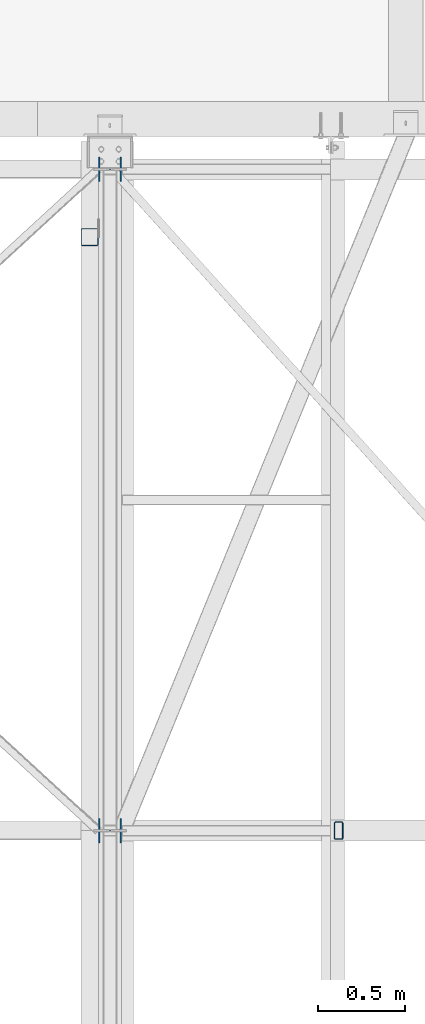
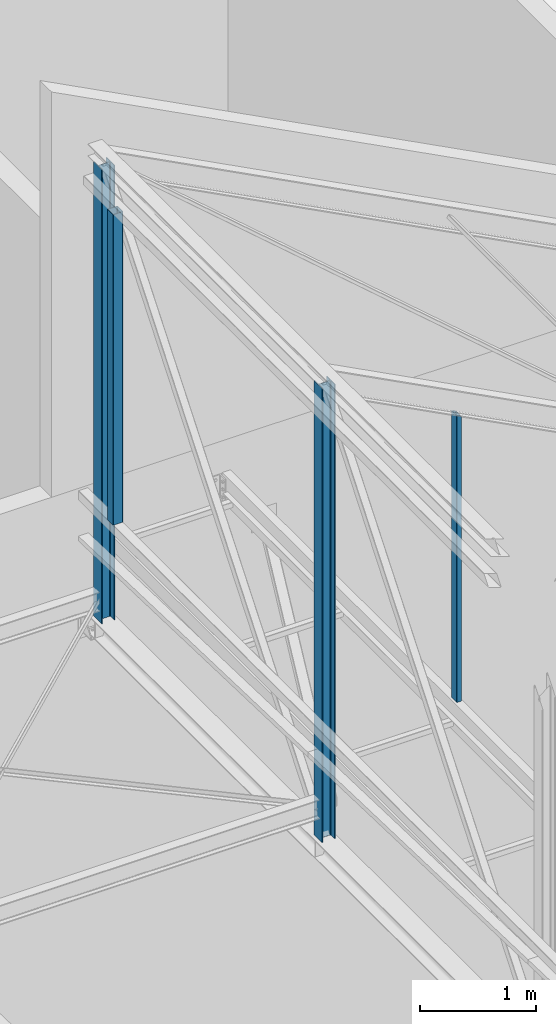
# One storey, part 5 of 123: 4 columns, 4 elements without a shape of their own.
"""IFC2X3 building model written with IfcOpenShell, lengths in millimetres."""

from ifc_helpers import new_model, si_unit, frame, origin_with_axes, origin_2d_with_axis, place, context, subcontext, project, spatial, hollow_rectangle, i_section, extrude, clip, halfspace, material, type_object, element, aggregate, save


model = new_model("IFC2X3")

# Units and contexts
model_context = context("Model", 3, precision=1e-05, world=origin_with_axes())
body_context = subcontext(model_context, "Body", "Model", "MODEL_VIEW")
ifc_project = project(units=[si_unit("LENGTHUNIT", "METRE", prefix="MILLI"), si_unit("AREAUNIT", "SQUARE_METRE"), si_unit("VOLUMEUNIT", "CUBIC_METRE"), si_unit("MASSUNIT", "GRAM", prefix="KILO"), si_unit("TIMEUNIT", "SECOND"), si_unit("PLANEANGLEUNIT", "RADIAN"), si_unit("SOLIDANGLEUNIT", "STERADIAN"), si_unit("THERMODYNAMICTEMPERATUREUNIT", "DEGREE_CELSIUS"), si_unit("LUMINOUSINTENSITYUNIT", "LUMEN")], contexts=[model_context])

# Site, building, storey
site_placement = place(None, origin_with_axes())
site = spatial("IfcSite", under=ifc_project, at=site_placement, Name="Undefined", CompositionType="ELEMENT")
building_placement = place(site_placement, origin_with_axes())
building = spatial("IfcBuilding", under=site, at=building_placement, Name="Undefined", CompositionType="ELEMENT")
storey_placement = place(building_placement, origin_with_axes())
storey = spatial("IfcBuildingStorey", under=building, at=storey_placement, Name="Undefined", CompositionType="ELEMENT", Elevation=0.0)

# Assembly, column
assembly_1_placement = place(storey_placement, origin_with_axes())
assembly_1 = element("IfcElementAssembly", 1, at=assembly_1_placement, inside=storey, Name="Steel Assembly", AssemblyPlace="NOTDEFINED", PredefinedType="RIGID_FRAME")
ifc_material_1 = material(Name="STEEL/S235-E24")
column_type_1 = type_object("IfcColumnType", Name="TUBE-R-100*50*3", PredefinedType="NOTDEFINED")
column_1_placement = place(assembly_1_placement, frame((13993.9998855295, 11400.0, 8240.0), z_axis=(0.0, 0.0, 1.0), x_axis=(0.0, -1.0, 0.0)))
column_1 = element("IfcColumn", 2, at=column_1_placement, type_object=column_type_1, material=ifc_material_1, Name="SUSPENTE", ObjectType="TUBE-R-100*50*3", context=body_context, shape_type="Clipping", body=[
    clip(extrude(hollow_rectangle(XDim=50.0, YDim=100.0, WallThickness=3.0, InnerFilletRadius=3.0, OuterFilletRadius=6.0, at=origin_2d_with_axis()), frame((0.0, 0.0, 3021.59058574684), z_axis=(0.0, 0.0, -1.0), x_axis=(0.0, 1.0, 0.0)), (0.0, 0.0, 1.0), 3021.6), halfspace(frame((0.0, -58.9640416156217, 3039.22712195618), z_axis=(0.0, -0.46352846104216, -0.886082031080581), x_axis=(1.0, 0.0, 0.0)), True)),
])
aggregate(assembly_1, [column_1])

assembly_2_placement = place(storey_placement, origin_with_axes())
assembly_2 = element("IfcElementAssembly", 3, at=assembly_2_placement, inside=storey, Name="Steel Assembly", AssemblyPlace="NOTDEFINED", PredefinedType="RIGID_FRAME")
ifc_material_2 = material(Name="STEEL/S275-E28")
column_type_2 = type_object("IfcColumnType", Name="HEA140", PredefinedType="NOTDEFINED")
column_2_placement = place(assembly_2_placement, frame((12680.0, 11400.0, 7250.0), z_axis=(0.0, 0.0, 1.0), x_axis=(-1.0, 0.0, 0.0)))
column_2 = element("IfcColumn", 4, at=column_2_placement, type_object=column_type_2, material=ifc_material_2, Name="MONTANT", ObjectType="HEA140", context=body_context, shape_type="SweptSolid", body=[
    extrude(i_section(OverallWidth=140.0, OverallDepth=133.0, WebThickness=5.5, FlangeThickness=8.5, FilletRadius=12.0, at=origin_2d_with_axis()), frame((0.0, 0.0, 4787.0), z_axis=(0.0, 0.0, -1.0), x_axis=(0.0, 1.0, 0.0)), (0.0, 0.0, 1.0), 4787.0),
])
aggregate(assembly_2, [column_2])

assembly_3_placement = place(storey_placement, origin_with_axes())
assembly_3 = element("IfcElementAssembly", 5, at=assembly_3_placement, inside=storey, Name="Steel Assembly", AssemblyPlace="NOTDEFINED", PredefinedType="RIGID_FRAME")
column_3_placement = place(assembly_3_placement, frame((12680.0, 15200.0, 7250.0), z_axis=(0.0, 0.0, 1.0), x_axis=(-1.0, 0.0, 0.0)))
column_3 = element("IfcColumn", 6, at=column_3_placement, type_object=column_type_2, material=ifc_material_2, Name="MONTANT", ObjectType="HEA140", context=body_context, shape_type="SweptSolid", body=[
    extrude(i_section(OverallWidth=140.0, OverallDepth=133.0, WebThickness=5.5, FlangeThickness=8.5, FilletRadius=12.0, at=origin_2d_with_axis()), frame((0.0, 0.0, 4787.0), z_axis=(0.0, 0.0, -1.0), x_axis=(0.0, 1.0, 0.0)), (0.0, 0.0, 1.0), 4787.0),
])
aggregate(assembly_3, [column_3])

assembly_4_placement = place(storey_placement, origin_with_axes())
assembly_4 = element("IfcElementAssembly", 7, at=assembly_4_placement, inside=storey, Name="Steel Assembly", AssemblyPlace="NOTDEFINED", PredefinedType="RIGID_FRAME")
column_type_3 = type_object("IfcColumnType", Name="TUBE-C-100*100*4", PredefinedType="NOTDEFINED")
column_4_placement = place(assembly_4_placement, frame((12563.5000106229, 14809.9999987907, 8550.00000000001), z_axis=(0.0, 0.0, 1.0), x_axis=(0.0, 1.0, 0.0)))
column_4 = element("IfcColumn", 8, at=column_4_placement, type_object=column_type_3, material=ifc_material_1, Name="MONTANT", ObjectType="TUBE-C-100*100*4", context=body_context, shape_type="SweptSolid", body=[
    extrude(hollow_rectangle(XDim=100.0, YDim=100.0, WallThickness=4.0, InnerFilletRadius=4.0, OuterFilletRadius=8.0, at=origin_2d_with_axis()), frame((0.0, 0.0, 3270.0), z_axis=(0.0, 0.0, -1.0), x_axis=(0.0, 1.0, 0.0)), (0.0, 0.0, 1.0), 3270.0),
])
aggregate(assembly_4, [column_4])

save(model, "model.ifc")
